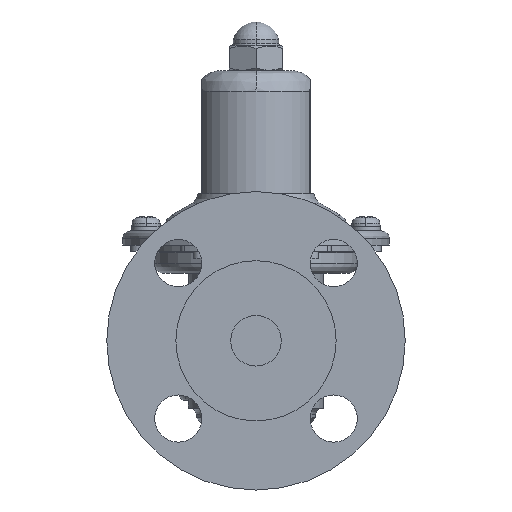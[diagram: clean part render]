
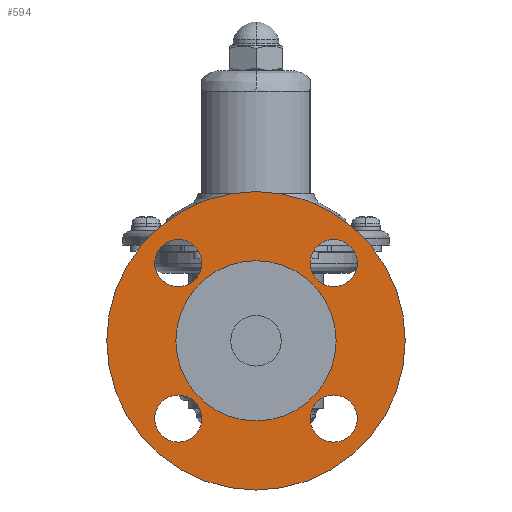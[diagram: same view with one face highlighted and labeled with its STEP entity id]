
A CAD part, left-side view. The second image highlights one B-rep face of the part: STEP entity #594.
In plain terms, the highlighted planar face has unit normal (-1, 0, 0).
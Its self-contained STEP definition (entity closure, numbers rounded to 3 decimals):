
#594=ADVANCED_FACE('',(#3278,#3279,#3280,#3281,#3282,#3283),#3277,.T.);
#3277=PLANE('',#7465);
#3278=FACE_OUTER_BOUND('',#7466,.T.);
#3279=FACE_BOUND('',#7467,.T.);
#3280=FACE_BOUND('',#7468,.T.);
#3281=FACE_BOUND('',#7469,.T.);
#3282=FACE_BOUND('',#7470,.T.);
#3283=FACE_BOUND('',#7471,.T.);
#7462=CARTESIAN_POINT('',(-96.5,-92.272,-105.));
#7463=DIRECTION('',(-1.,0.,0.));
#7464=DIRECTION('',(0.,0.,1.));
#7465=AXIS2_PLACEMENT_3D('',#7462,#7463,#7464);
#7466=EDGE_LOOP('',(#10158,#10159));
#7467=EDGE_LOOP('',(#10160,#10161));
#7468=EDGE_LOOP('',(#10162,#10163));
#7469=EDGE_LOOP('',(#10164,#10165));
#7470=EDGE_LOOP('',(#10166,#10167));
#7471=EDGE_LOOP('',(#10168,#10169));
#10158=ORIENTED_EDGE('',*,*,#11936,.F.);
#10159=ORIENTED_EDGE('',*,*,#11937,.F.);
#10160=ORIENTED_EDGE('',*,*,#11938,.T.);
#10161=ORIENTED_EDGE('',*,*,#11939,.T.);
#10162=ORIENTED_EDGE('',*,*,#11940,.T.);
#10163=ORIENTED_EDGE('',*,*,#11941,.T.);
#10164=ORIENTED_EDGE('',*,*,#11942,.T.);
#10165=ORIENTED_EDGE('',*,*,#11943,.T.);
#10166=ORIENTED_EDGE('',*,*,#11944,.T.);
#10167=ORIENTED_EDGE('',*,*,#11945,.T.);
#10168=ORIENTED_EDGE('',*,*,#11946,.F.);
#10169=ORIENTED_EDGE('',*,*,#11947,.F.);
#11936=EDGE_CURVE('',#17172,#17173,#17174,.T.);
#11937=EDGE_CURVE('',#17173,#17172,#17180,.T.);
#11938=EDGE_CURVE('',#17186,#17187,#17188,.T.);
#11939=EDGE_CURVE('',#17187,#17186,#17194,.T.);
#11940=EDGE_CURVE('',#17200,#17201,#17202,.T.);
#11941=EDGE_CURVE('',#17201,#17200,#17208,.T.);
#11942=EDGE_CURVE('',#17214,#17215,#17216,.T.);
#11943=EDGE_CURVE('',#17215,#17214,#17222,.T.);
#11944=EDGE_CURVE('',#17228,#17229,#17230,.T.);
#11945=EDGE_CURVE('',#17229,#17228,#17236,.T.);
#11946=EDGE_CURVE('',#17242,#17243,#17244,.T.);
#11947=EDGE_CURVE('',#17243,#17242,#17250,.T.);
#17172=VERTEX_POINT('',#23607);
#17173=VERTEX_POINT('',#23608);
#17174=CIRCLE('',#23612,47.5);
#17180=CIRCLE('',#23616,47.5);
#17186=VERTEX_POINT('',#23617);
#17187=VERTEX_POINT('',#23618);
#17188=CIRCLE('',#23622,7.5);
#17194=CIRCLE('',#23626,7.5);
#17200=VERTEX_POINT('',#23627);
#17201=VERTEX_POINT('',#23628);
#17202=CIRCLE('',#23632,7.5);
#17208=CIRCLE('',#23636,7.5);
#17214=VERTEX_POINT('',#23637);
#17215=VERTEX_POINT('',#23638);
#17216=CIRCLE('',#23642,7.5);
#17222=CIRCLE('',#23646,7.5);
#17228=VERTEX_POINT('',#23647);
#17229=VERTEX_POINT('',#23648);
#17230=CIRCLE('',#23652,7.5);
#17236=CIRCLE('',#23656,7.5);
#17242=VERTEX_POINT('',#23657);
#17243=VERTEX_POINT('',#23658);
#17244=CIRCLE('',#23662,25.5);
#17250=CIRCLE('',#23666,25.5);
#23607=CARTESIAN_POINT('',(-96.5,0.,-47.5));
#23608=CARTESIAN_POINT('',(-96.5,0.,47.5));
#23609=CARTESIAN_POINT('',(-96.5,0.,0.));
#23610=DIRECTION('',(1.,0.,0.));
#23611=DIRECTION('',(0.,0.,1.));
#23612=AXIS2_PLACEMENT_3D('',#23609,#23610,#23611);
#23613=CARTESIAN_POINT('',(-96.5,0.,0.));
#23614=DIRECTION('',(1.,0.,0.));
#23615=DIRECTION('',(0.,0.,1.));
#23616=AXIS2_PLACEMENT_3D('',#23613,#23614,#23615);
#23617=CARTESIAN_POINT('',(-96.5,24.749,-17.249));
#23618=CARTESIAN_POINT('',(-96.5,24.749,-32.249));
#23619=CARTESIAN_POINT('',(-96.5,24.749,-24.749));
#23620=DIRECTION('',(1.,0.,0.));
#23621=DIRECTION('',(0.,0.,1.));
#23622=AXIS2_PLACEMENT_3D('',#23619,#23620,#23621);
#23623=CARTESIAN_POINT('',(-96.5,24.749,-24.749));
#23624=DIRECTION('',(1.,0.,0.));
#23625=DIRECTION('',(0.,0.,1.));
#23626=AXIS2_PLACEMENT_3D('',#23623,#23624,#23625);
#23627=CARTESIAN_POINT('',(-96.5,-24.749,32.249));
#23628=CARTESIAN_POINT('',(-96.5,-24.749,17.249));
#23629=CARTESIAN_POINT('',(-96.5,-24.749,24.749));
#23630=DIRECTION('',(1.,0.,0.));
#23631=DIRECTION('',(0.,0.,1.));
#23632=AXIS2_PLACEMENT_3D('',#23629,#23630,#23631);
#23633=CARTESIAN_POINT('',(-96.5,-24.749,24.749));
#23634=DIRECTION('',(1.,0.,0.));
#23635=DIRECTION('',(0.,0.,1.));
#23636=AXIS2_PLACEMENT_3D('',#23633,#23634,#23635);
#23637=CARTESIAN_POINT('',(-96.5,24.749,32.249));
#23638=CARTESIAN_POINT('',(-96.5,24.749,17.249));
#23639=CARTESIAN_POINT('',(-96.5,24.749,24.749));
#23640=DIRECTION('',(1.,0.,0.));
#23641=DIRECTION('',(0.,0.,1.));
#23642=AXIS2_PLACEMENT_3D('',#23639,#23640,#23641);
#23643=CARTESIAN_POINT('',(-96.5,24.749,24.749));
#23644=DIRECTION('',(1.,0.,0.));
#23645=DIRECTION('',(0.,0.,1.));
#23646=AXIS2_PLACEMENT_3D('',#23643,#23644,#23645);
#23647=CARTESIAN_POINT('',(-96.5,-24.749,-17.249));
#23648=CARTESIAN_POINT('',(-96.5,-24.749,-32.249));
#23649=CARTESIAN_POINT('',(-96.5,-24.749,-24.749));
#23650=DIRECTION('',(1.,0.,0.));
#23651=DIRECTION('',(0.,0.,1.));
#23652=AXIS2_PLACEMENT_3D('',#23649,#23650,#23651);
#23653=CARTESIAN_POINT('',(-96.5,-24.749,-24.749));
#23654=DIRECTION('',(1.,0.,0.));
#23655=DIRECTION('',(0.,0.,1.));
#23656=AXIS2_PLACEMENT_3D('',#23653,#23654,#23655);
#23657=CARTESIAN_POINT('',(-96.5,0.,-25.5));
#23658=CARTESIAN_POINT('',(-96.5,0.,25.5));
#23659=CARTESIAN_POINT('',(-96.5,0.,0.));
#23660=DIRECTION('',(-1.,0.,0.));
#23661=DIRECTION('',(0.,0.,1.));
#23662=AXIS2_PLACEMENT_3D('',#23659,#23660,#23661);
#23663=CARTESIAN_POINT('',(-96.5,0.,0.));
#23664=DIRECTION('',(-1.,0.,0.));
#23665=DIRECTION('',(0.,0.,1.));
#23666=AXIS2_PLACEMENT_3D('',#23663,#23664,#23665);
